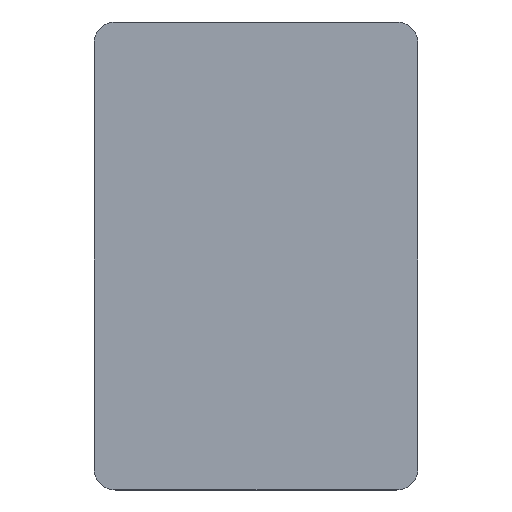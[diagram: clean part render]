
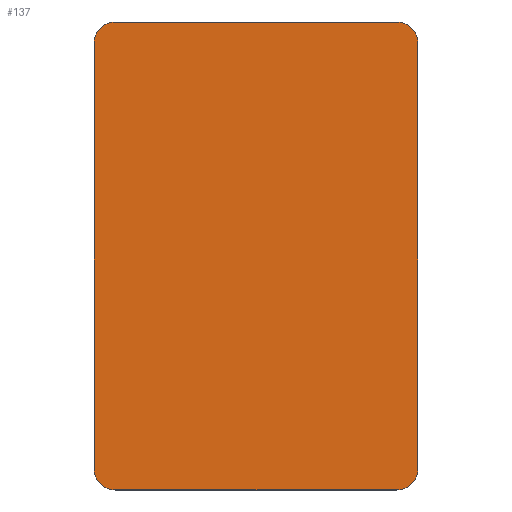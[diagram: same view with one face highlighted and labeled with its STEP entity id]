
A CAD part, top view. The second image highlights one B-rep face of the part: STEP entity #137.
In plain terms, the highlighted planar face has unit normal (0, 0, 1).
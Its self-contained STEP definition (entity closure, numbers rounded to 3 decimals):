
#21 = EDGE_CURVE('',#22,#24,#26,.T.);
#22 = VERTEX_POINT('',#23);
#23 = CARTESIAN_POINT('',(-90.,-118.,4.));
#24 = VERTEX_POINT('',#25);
#25 = CARTESIAN_POINT('',(-90.,118.,4.));
#26 = SURFACE_CURVE('',#27,(#31,#43),.PCURVE_S1.);
#27 = LINE('',#28,#29);
#28 = CARTESIAN_POINT('',(-90.,-130.,4.));
#29 = VECTOR('',#30,1.);
#30 = DIRECTION('',(0.,1.,0.));
#31 = PCURVE('',#32,#37);
#32 = PLANE('',#33);
#33 = AXIS2_PLACEMENT_3D('',#34,#35,#36);
#34 = CARTESIAN_POINT('',(-90.,-130.,0.));
#35 = DIRECTION('',(1.,0.,0.));
#36 = DIRECTION('',(0.,0.,1.));
#37 = DEFINITIONAL_REPRESENTATION('',(#38),#42);
#38 = LINE('',#39,#40);
#39 = CARTESIAN_POINT('',(4.,0.));
#40 = VECTOR('',#41,1.);
#41 = DIRECTION('',(0.,-1.));
#42 = ( GEOMETRIC_REPRESENTATION_CONTEXT(2) 
PARAMETRIC_REPRESENTATION_CONTEXT() REPRESENTATION_CONTEXT('2D SPACE',''
  ) );
#43 = PCURVE('',#44,#49);
#44 = PLANE('',#45);
#45 = AXIS2_PLACEMENT_3D('',#46,#47,#48);
#46 = CARTESIAN_POINT('',(-90.,-130.,4.));
#47 = DIRECTION('',(0.,0.,1.));
#48 = DIRECTION('',(1.,0.,0.));
#49 = DEFINITIONAL_REPRESENTATION('',(#50),#54);
#50 = LINE('',#51,#52);
#51 = CARTESIAN_POINT('',(0.,0.));
#52 = VECTOR('',#53,1.);
#53 = DIRECTION('',(0.,1.));
#54 = ( GEOMETRIC_REPRESENTATION_CONTEXT(2) 
PARAMETRIC_REPRESENTATION_CONTEXT() REPRESENTATION_CONTEXT('2D SPACE',''
  ) );
#72 = CYLINDRICAL_SURFACE('',#73,12.);
#73 = AXIS2_PLACEMENT_3D('',#74,#75,#76);
#74 = CARTESIAN_POINT('',(-78.,-118.,0.));
#75 = DIRECTION('',(0.,0.,1.));
#76 = DIRECTION('',(-1.,-0.,0.));
#126 = CYLINDRICAL_SURFACE('',#127,12.);
#127 = AXIS2_PLACEMENT_3D('',#128,#129,#130);
#128 = CARTESIAN_POINT('',(-78.,118.,0.));
#129 = DIRECTION('',(0.,0.,1.));
#130 = DIRECTION('',(-1.,-0.,0.));
#137 = ADVANCED_FACE('',(#138),#44,.T.);
#138 = FACE_BOUND('',#139,.T.);
#139 = EDGE_LOOP('',(#140,#141,#165,#193,#226,#254,#283,#311));
#140 = ORIENTED_EDGE('',*,*,#21,.F.);
#141 = ORIENTED_EDGE('',*,*,#142,.T.);
#142 = EDGE_CURVE('',#22,#143,#145,.T.);
#143 = VERTEX_POINT('',#144);
#144 = CARTESIAN_POINT('',(-78.,-130.,4.));
#145 = SURFACE_CURVE('',#146,(#151,#158),.PCURVE_S1.);
#146 = CIRCLE('',#147,12.);
#147 = AXIS2_PLACEMENT_3D('',#148,#149,#150);
#148 = CARTESIAN_POINT('',(-78.,-118.,4.));
#149 = DIRECTION('',(0.,0.,1.));
#150 = DIRECTION('',(0.,-1.,0.));
#151 = PCURVE('',#44,#152);
#152 = DEFINITIONAL_REPRESENTATION('',(#153),#157);
#153 = CIRCLE('',#154,12.);
#154 = AXIS2_PLACEMENT_2D('',#155,#156);
#155 = CARTESIAN_POINT('',(12.,12.));
#156 = DIRECTION('',(0.,-1.));
#157 = ( GEOMETRIC_REPRESENTATION_CONTEXT(2) 
PARAMETRIC_REPRESENTATION_CONTEXT() REPRESENTATION_CONTEXT('2D SPACE',''
  ) );
#158 = PCURVE('',#72,#159);
#159 = DEFINITIONAL_REPRESENTATION('',(#160),#164);
#160 = LINE('',#161,#162);
#161 = CARTESIAN_POINT('',(-4.712,4.));
#162 = VECTOR('',#163,1.);
#163 = DIRECTION('',(1.,0.));
#164 = ( GEOMETRIC_REPRESENTATION_CONTEXT(2) 
PARAMETRIC_REPRESENTATION_CONTEXT() REPRESENTATION_CONTEXT('2D SPACE',''
  ) );
#165 = ORIENTED_EDGE('',*,*,#166,.T.);
#166 = EDGE_CURVE('',#143,#167,#169,.T.);
#167 = VERTEX_POINT('',#168);
#168 = CARTESIAN_POINT('',(78.,-130.,4.));
#169 = SURFACE_CURVE('',#170,(#174,#181),.PCURVE_S1.);
#170 = LINE('',#171,#172);
#171 = CARTESIAN_POINT('',(-90.,-130.,4.));
#172 = VECTOR('',#173,1.);
#173 = DIRECTION('',(1.,0.,0.));
#174 = PCURVE('',#44,#175);
#175 = DEFINITIONAL_REPRESENTATION('',(#176),#180);
#176 = LINE('',#177,#178);
#177 = CARTESIAN_POINT('',(0.,0.));
#178 = VECTOR('',#179,1.);
#179 = DIRECTION('',(1.,0.));
#180 = ( GEOMETRIC_REPRESENTATION_CONTEXT(2) 
PARAMETRIC_REPRESENTATION_CONTEXT() REPRESENTATION_CONTEXT('2D SPACE',''
  ) );
#181 = PCURVE('',#182,#187);
#182 = PLANE('',#183);
#183 = AXIS2_PLACEMENT_3D('',#184,#185,#186);
#184 = CARTESIAN_POINT('',(-90.,-130.,0.));
#185 = DIRECTION('',(0.,1.,0.));
#186 = DIRECTION('',(0.,0.,1.));
#187 = DEFINITIONAL_REPRESENTATION('',(#188),#192);
#188 = LINE('',#189,#190);
#189 = CARTESIAN_POINT('',(4.,0.));
#190 = VECTOR('',#191,1.);
#191 = DIRECTION('',(0.,1.));
#192 = ( GEOMETRIC_REPRESENTATION_CONTEXT(2) 
PARAMETRIC_REPRESENTATION_CONTEXT() REPRESENTATION_CONTEXT('2D SPACE',''
  ) );
#193 = ORIENTED_EDGE('',*,*,#194,.F.);
#194 = EDGE_CURVE('',#195,#167,#197,.T.);
#195 = VERTEX_POINT('',#196);
#196 = CARTESIAN_POINT('',(90.,-118.,4.));
#197 = SURFACE_CURVE('',#198,(#203,#214),.PCURVE_S1.);
#198 = CIRCLE('',#199,12.);
#199 = AXIS2_PLACEMENT_3D('',#200,#201,#202);
#200 = CARTESIAN_POINT('',(78.,-118.,4.));
#201 = DIRECTION('',(-0.,-0.,-1.));
#202 = DIRECTION('',(0.,-1.,0.));
#203 = PCURVE('',#44,#204);
#204 = DEFINITIONAL_REPRESENTATION('',(#205),#213);
#205 = ( BOUNDED_CURVE() B_SPLINE_CURVE(2,(#206,#207,#208,#209,#210,#211
,#212),.UNSPECIFIED.,.T.,.F.) B_SPLINE_CURVE_WITH_KNOTS((1,2,2,2,2,1),(
    -2.094,0.,2.094,4.189,6.283,
8.378),.UNSPECIFIED.) CURVE() GEOMETRIC_REPRESENTATION_ITEM() 
RATIONAL_B_SPLINE_CURVE((1.,0.5,1.,0.5,1.,0.5,1.)) REPRESENTATION_ITEM(
  '') );
#206 = CARTESIAN_POINT('',(168.,0.));
#207 = CARTESIAN_POINT('',(147.215,0.));
#208 = CARTESIAN_POINT('',(157.608,18.));
#209 = CARTESIAN_POINT('',(168.,36.));
#210 = CARTESIAN_POINT('',(178.392,18.));
#211 = CARTESIAN_POINT('',(188.785,0.));
#212 = CARTESIAN_POINT('',(168.,0.));
#213 = ( GEOMETRIC_REPRESENTATION_CONTEXT(2) 
PARAMETRIC_REPRESENTATION_CONTEXT() REPRESENTATION_CONTEXT('2D SPACE',''
  ) );
#214 = PCURVE('',#215,#220);
#215 = CYLINDRICAL_SURFACE('',#216,12.);
#216 = AXIS2_PLACEMENT_3D('',#217,#218,#219);
#217 = CARTESIAN_POINT('',(78.,-118.,0.));
#218 = DIRECTION('',(0.,0.,1.));
#219 = DIRECTION('',(1.,0.,-0.));
#220 = DEFINITIONAL_REPRESENTATION('',(#221),#225);
#221 = LINE('',#222,#223);
#222 = CARTESIAN_POINT('',(4.712,4.));
#223 = VECTOR('',#224,1.);
#224 = DIRECTION('',(-1.,0.));
#225 = ( GEOMETRIC_REPRESENTATION_CONTEXT(2) 
PARAMETRIC_REPRESENTATION_CONTEXT() REPRESENTATION_CONTEXT('2D SPACE',''
  ) );
#226 = ORIENTED_EDGE('',*,*,#227,.T.);
#227 = EDGE_CURVE('',#195,#228,#230,.T.);
#228 = VERTEX_POINT('',#229);
#229 = CARTESIAN_POINT('',(90.,118.,4.));
#230 = SURFACE_CURVE('',#231,(#235,#242),.PCURVE_S1.);
#231 = LINE('',#232,#233);
#232 = CARTESIAN_POINT('',(90.,-130.,4.));
#233 = VECTOR('',#234,1.);
#234 = DIRECTION('',(0.,1.,0.));
#235 = PCURVE('',#44,#236);
#236 = DEFINITIONAL_REPRESENTATION('',(#237),#241);
#237 = LINE('',#238,#239);
#238 = CARTESIAN_POINT('',(180.,0.));
#239 = VECTOR('',#240,1.);
#240 = DIRECTION('',(0.,1.));
#241 = ( GEOMETRIC_REPRESENTATION_CONTEXT(2) 
PARAMETRIC_REPRESENTATION_CONTEXT() REPRESENTATION_CONTEXT('2D SPACE',''
  ) );
#242 = PCURVE('',#243,#248);
#243 = PLANE('',#244);
#244 = AXIS2_PLACEMENT_3D('',#245,#246,#247);
#245 = CARTESIAN_POINT('',(90.,-130.,0.));
#246 = DIRECTION('',(1.,0.,0.));
#247 = DIRECTION('',(0.,0.,1.));
#248 = DEFINITIONAL_REPRESENTATION('',(#249),#253);
#249 = LINE('',#250,#251);
#250 = CARTESIAN_POINT('',(4.,0.));
#251 = VECTOR('',#252,1.);
#252 = DIRECTION('',(0.,-1.));
#253 = ( GEOMETRIC_REPRESENTATION_CONTEXT(2) 
PARAMETRIC_REPRESENTATION_CONTEXT() REPRESENTATION_CONTEXT('2D SPACE',''
  ) );
#254 = ORIENTED_EDGE('',*,*,#255,.T.);
#255 = EDGE_CURVE('',#228,#256,#258,.T.);
#256 = VERTEX_POINT('',#257);
#257 = CARTESIAN_POINT('',(78.,130.,4.));
#258 = SURFACE_CURVE('',#259,(#264,#271),.PCURVE_S1.);
#259 = CIRCLE('',#260,12.);
#260 = AXIS2_PLACEMENT_3D('',#261,#262,#263);
#261 = CARTESIAN_POINT('',(78.,118.,4.));
#262 = DIRECTION('',(0.,0.,1.));
#263 = DIRECTION('',(0.,-1.,0.));
#264 = PCURVE('',#44,#265);
#265 = DEFINITIONAL_REPRESENTATION('',(#266),#270);
#266 = CIRCLE('',#267,12.);
#267 = AXIS2_PLACEMENT_2D('',#268,#269);
#268 = CARTESIAN_POINT('',(168.,248.));
#269 = DIRECTION('',(0.,-1.));
#270 = ( GEOMETRIC_REPRESENTATION_CONTEXT(2) 
PARAMETRIC_REPRESENTATION_CONTEXT() REPRESENTATION_CONTEXT('2D SPACE',''
  ) );
#271 = PCURVE('',#272,#277);
#272 = CYLINDRICAL_SURFACE('',#273,12.);
#273 = AXIS2_PLACEMENT_3D('',#274,#275,#276);
#274 = CARTESIAN_POINT('',(78.,118.,0.));
#275 = DIRECTION('',(0.,0.,1.));
#276 = DIRECTION('',(1.,0.,-0.));
#277 = DEFINITIONAL_REPRESENTATION('',(#278),#282);
#278 = LINE('',#279,#280);
#279 = CARTESIAN_POINT('',(-1.571,4.));
#280 = VECTOR('',#281,1.);
#281 = DIRECTION('',(1.,0.));
#282 = ( GEOMETRIC_REPRESENTATION_CONTEXT(2) 
PARAMETRIC_REPRESENTATION_CONTEXT() REPRESENTATION_CONTEXT('2D SPACE',''
  ) );
#283 = ORIENTED_EDGE('',*,*,#284,.F.);
#284 = EDGE_CURVE('',#285,#256,#287,.T.);
#285 = VERTEX_POINT('',#286);
#286 = CARTESIAN_POINT('',(-78.,130.,4.));
#287 = SURFACE_CURVE('',#288,(#292,#299),.PCURVE_S1.);
#288 = LINE('',#289,#290);
#289 = CARTESIAN_POINT('',(-90.,130.,4.));
#290 = VECTOR('',#291,1.);
#291 = DIRECTION('',(1.,0.,0.));
#292 = PCURVE('',#44,#293);
#293 = DEFINITIONAL_REPRESENTATION('',(#294),#298);
#294 = LINE('',#295,#296);
#295 = CARTESIAN_POINT('',(0.,260.));
#296 = VECTOR('',#297,1.);
#297 = DIRECTION('',(1.,0.));
#298 = ( GEOMETRIC_REPRESENTATION_CONTEXT(2) 
PARAMETRIC_REPRESENTATION_CONTEXT() REPRESENTATION_CONTEXT('2D SPACE',''
  ) );
#299 = PCURVE('',#300,#305);
#300 = PLANE('',#301);
#301 = AXIS2_PLACEMENT_3D('',#302,#303,#304);
#302 = CARTESIAN_POINT('',(-90.,130.,0.));
#303 = DIRECTION('',(0.,1.,0.));
#304 = DIRECTION('',(0.,0.,1.));
#305 = DEFINITIONAL_REPRESENTATION('',(#306),#310);
#306 = LINE('',#307,#308);
#307 = CARTESIAN_POINT('',(4.,0.));
#308 = VECTOR('',#309,1.);
#309 = DIRECTION('',(0.,1.));
#310 = ( GEOMETRIC_REPRESENTATION_CONTEXT(2) 
PARAMETRIC_REPRESENTATION_CONTEXT() REPRESENTATION_CONTEXT('2D SPACE',''
  ) );
#311 = ORIENTED_EDGE('',*,*,#312,.F.);
#312 = EDGE_CURVE('',#24,#285,#313,.T.);
#313 = SURFACE_CURVE('',#314,(#319,#330),.PCURVE_S1.);
#314 = CIRCLE('',#315,12.);
#315 = AXIS2_PLACEMENT_3D('',#316,#317,#318);
#316 = CARTESIAN_POINT('',(-78.,118.,4.));
#317 = DIRECTION('',(-0.,-0.,-1.));
#318 = DIRECTION('',(0.,-1.,0.));
#319 = PCURVE('',#44,#320);
#320 = DEFINITIONAL_REPRESENTATION('',(#321),#329);
#321 = ( BOUNDED_CURVE() B_SPLINE_CURVE(2,(#322,#323,#324,#325,#326,#327
,#328),.UNSPECIFIED.,.T.,.F.) B_SPLINE_CURVE_WITH_KNOTS((1,2,2,2,2,1),(
    -2.094,0.,2.094,4.189,6.283,
8.378),.UNSPECIFIED.) CURVE() GEOMETRIC_REPRESENTATION_ITEM() 
RATIONAL_B_SPLINE_CURVE((1.,0.5,1.,0.5,1.,0.5,1.)) REPRESENTATION_ITEM(
  '') );
#322 = CARTESIAN_POINT('',(12.,236.));
#323 = CARTESIAN_POINT('',(-8.785,236.));
#324 = CARTESIAN_POINT('',(1.608,254.));
#325 = CARTESIAN_POINT('',(12.,272.));
#326 = CARTESIAN_POINT('',(22.392,254.));
#327 = CARTESIAN_POINT('',(32.785,236.));
#328 = CARTESIAN_POINT('',(12.,236.));
#329 = ( GEOMETRIC_REPRESENTATION_CONTEXT(2) 
PARAMETRIC_REPRESENTATION_CONTEXT() REPRESENTATION_CONTEXT('2D SPACE',''
  ) );
#330 = PCURVE('',#126,#331);
#331 = DEFINITIONAL_REPRESENTATION('',(#332),#336);
#332 = LINE('',#333,#334);
#333 = CARTESIAN_POINT('',(1.571,4.));
#334 = VECTOR('',#335,1.);
#335 = DIRECTION('',(-1.,0.));
#336 = ( GEOMETRIC_REPRESENTATION_CONTEXT(2) 
PARAMETRIC_REPRESENTATION_CONTEXT() REPRESENTATION_CONTEXT('2D SPACE',''
  ) );
